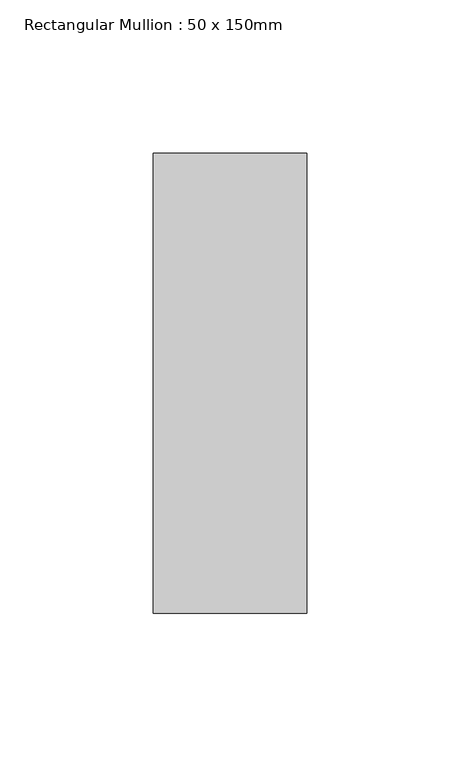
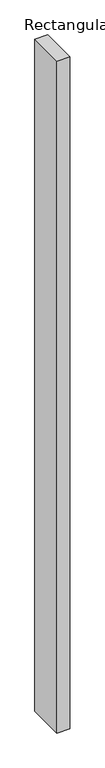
"""IFC4 building model written with IfcOpenShell, lengths in millimetres: member geometry, Rectangular Mullion : 50 x 150mm."""

import ifcopenshell
import ifcopenshell.guid

model = None  # the IFC model being written
_history = None  # IfcOwnerHistory: only IFC2X3 demands one
_inside = {}  # id of a spatial element -> (the spatial element, [elements in it])
_under = {}  # id of a project, library or spatial element -> (it, [spatial elements below it])
_declared = {}  # id of a project -> (the project, [libraries it declares])
_typed = {}  # id of a type object -> (the type object, [elements of that type])
_made_of = {}  # id of a material, layer set ... -> (it, [elements and type objects made of it])


def new_model(schema):
    """Start an empty IFC model of exactly this schema.

    Asked for "IFC4X3", IfcOpenShell would pick the latest addendum, in which some entities
    have other attributes; the version numbers below select the first issue.
    IFC2X3 requires an IfcOwnerHistory on every rooted entity: one is made here for all.
    """
    global model, _history
    if schema == "IFC4X3":
        model = ifcopenshell.file(schema_version=(4, 3, 0, 0))
    else:
        model = ifcopenshell.file(schema=schema)
    _inside.clear()
    _under.clear()
    _declared.clear()
    _typed.clear()
    _made_of.clear()
    _history = None
    if model.schema == "IFC2X3":
        org = make("IfcOrganization", Name="unknown")
        user = make(
            "IfcPersonAndOrganization",
            ThePerson=make("IfcPerson", FamilyName="unknown"),
            TheOrganization=org,
        )
        app = make(
            "IfcApplication",
            ApplicationDeveloper=org,
            Version="unknown",
            ApplicationFullName="unknown",
            ApplicationIdentifier="unknown",
        )
        _history = make(
            "IfcOwnerHistory",
            OwningUser=user,
            OwningApplication=app,
            ChangeAction="ADDED",
            CreationDate=0,
        )
    return model


def make(cls, **values):
    """One entity of the class cls with the attributes given. An attribute that is None is left unset."""
    return model.create_entity(
        cls, **{name: value for name, value in values.items() if value is not None}
    )


def rooted(cls, **values):
    """An entity with a GlobalId (a new one), such as an element, a storey or a relation."""
    return make(cls, GlobalId=ifcopenshell.guid.new(), OwnerHistory=_history, **values)


def si_unit(unit_type, name, prefix=None):
    """IfcSIUnit, for example si_unit("LENGTHUNIT", "METRE", prefix="MILLI")."""
    return make("IfcSIUnit", UnitType=unit_type, Prefix=prefix, Name=name)


def assignment(units):
    """IfcUnitAssignment: the units of a project."""
    return None if units is None else make("IfcUnitAssignment", Units=units)


def point(xyz):
    """IfcCartesianPoint."""
    return None if xyz is None else make("IfcCartesianPoint", Coordinates=xyz)


def direction(xyz):
    """IfcDirection."""
    return None if xyz is None else make("IfcDirection", DirectionRatios=xyz)


def frame(location, z_axis=None, x_axis=None):
    """IfcAxis2Placement3D, a coordinate frame: its origin and axes. An axis left out is left unset."""
    return make(
        "IfcAxis2Placement3D",
        Location=point(location),
        Axis=direction(z_axis),
        RefDirection=direction(x_axis),
    )


def origin():
    """The frame at (0, 0, 0) with its axes left unset."""
    return frame((0.0, 0.0, 0.0))


def place(relative_to, where):
    """IfcLocalPlacement: puts the frame where relative to a parent placement (None: the world)."""
    return make(
        "IfcLocalPlacement", PlacementRelTo=relative_to, RelativePlacement=where
    )


def context(
    kind, dimensions, precision=None, world=None, true_north=None, identifier=None
):
    """IfcGeometricRepresentationContext, for example the 3D "Model" context."""
    return make(
        "IfcGeometricRepresentationContext",
        ContextIdentifier=identifier,
        ContextType=kind,
        CoordinateSpaceDimension=dimensions,
        Precision=precision,
        WorldCoordinateSystem=world,
        TrueNorth=true_north,
    )


def project(units=None, contexts=None):
    """IfcProject with its units and contexts."""
    return rooted(
        "IfcProject",
        Name="project",
        RepresentationContexts=contexts,
        UnitsInContext=assignment(units),
    )


def spatial(cls, under=None, at=None, **own):
    """A site, building, storey or space (cls), placed at a placement, below another one or the project."""
    s = rooted(cls, ObjectPlacement=at, **own)
    if under is not None:
        _under.setdefault(under.id(), (under, []))[1].append(s)
    return s


def polyline(points):
    """IfcPolyline through the points."""
    return make("IfcPolyline", Points=[point(p) for p in points])


def outline(outer, holes=None, kind="AREA"):
    """IfcArbitraryClosedProfileDef: a profile drawn as a closed curve; with holes, ...WithVoids."""
    if holes is None:
        return make("IfcArbitraryClosedProfileDef", ProfileType=kind, OuterCurve=outer)
    return make(
        "IfcArbitraryProfileDefWithVoids",
        ProfileType=kind,
        OuterCurve=outer,
        InnerCurves=holes,
    )


def extrude(swept, where, along, depth):
    """IfcExtrudedAreaSolid: the profile swept, set in the frame where, extruded along a direction by depth."""
    return make(
        "IfcExtrudedAreaSolid",
        SweptArea=swept,
        Position=where,
        ExtrudedDirection=direction(along),
        Depth=depth,
    )


def shape(context_of_items, identifier, shape_type, items):
    """IfcShapeRepresentation: the items that make up one representation, for example the "Body"."""
    return make(
        "IfcShapeRepresentation",
        ContextOfItems=context_of_items,
        RepresentationIdentifier=identifier,
        RepresentationType=shape_type,
        Items=items,
    )


def source(mapping_origin, context_of_items, identifier, shape_type, items):
    """IfcRepresentationMap: a shape defined once, which mapped items show again and again."""
    return make(
        "IfcRepresentationMap",
        MappingOrigin=mapping_origin,
        MappedRepresentation=shape(context_of_items, identifier, shape_type, items),
    )


def transform(
    local_origin,
    x_axis=None,
    y_axis=None,
    z_axis=None,
    scale=None,
    scale2=None,
    scale3=None,
    uniform=True,
):
    """IfcCartesianTransformationOperator3D, or its non-uniform kind. x_axis, y_axis, z_axis: its Axis1, 2, 3."""
    if uniform:
        return make(
            "IfcCartesianTransformationOperator3D",
            Axis1=direction(x_axis),
            Axis2=direction(y_axis),
            LocalOrigin=point(local_origin),
            Scale=scale,
            Axis3=direction(z_axis),
        )
    return make(
        "IfcCartesianTransformationOperator3DnonUniform",
        Axis1=direction(x_axis),
        Axis2=direction(y_axis),
        LocalOrigin=point(local_origin),
        Scale=scale,
        Axis3=direction(z_axis),
        Scale2=scale2,
        Scale3=scale3,
    )


def mapped(mapping_source, mapping_target):
    """IfcMappedItem: shows the shape of a source again, moved by a transform."""
    return make(
        "IfcMappedItem", MappingSource=mapping_source, MappingTarget=mapping_target
    )


def made_of(thing, what):
    """Note that an element or type object is made of a material, layer set ...; save() writes the relation."""
    if what is not None:
        _made_of.setdefault(what.id(), (what, []))[1].append(thing)
    return thing


def element(
    cls,
    number,
    at=None,
    inside=None,
    cuts=None,
    type_object=None,
    material=None,
    context=None,
    identifier="Body",
    shape_type=None,
    held_by="IfcProductDefinitionShape",
    body=None,
    shapes=None,
    **own,
):
    """One element of the class cls, such as IfcWall. Its Tag is "e" and its number.

    at: its placement. inside: the storey or other place that contains it. cuts: it is an
    opening in that element (IfcRelVoidsElement). A single representation is given by context,
    identifier, shape_type and body (its items); several are given by shapes. held_by: the class
    of the entity that holds the representations. save() writes the other relations.
    """
    e = rooted(cls, Tag="e%d" % number, ObjectPlacement=at, **own)
    if body is not None:
        shapes = [shape(context, identifier, shape_type, body)]
    if shapes is not None:
        e.Representation = make(held_by, Representations=shapes)
    if inside is not None:
        _inside.setdefault(inside.id(), (inside, []))[1].append(e)
    if cuts is not None:
        rooted(
            "IfcRelVoidsElement", RelatingBuildingElement=cuts, RelatedOpeningElement=e
        )
    if type_object is not None:
        _typed.setdefault(type_object.id(), (type_object, []))[1].append(e)
    return made_of(e, material)


def aggregate(whole, parts):
    """IfcRelAggregates: a whole, such as a stair, and the parts it consists of."""
    return rooted("IfcRelAggregates", RelatingObject=whole, RelatedObjects=parts)


def save(model, path):
    """Write the relations noted so far, then the file.

    IfcRelAggregates (storeys below a building ...), IfcRelContainedInSpatialStructure (elements
    in a storey), IfcRelDefinesByType, IfcRelAssociatesMaterial and IfcRelDeclares: one each for
    every whole, place, type object, material and project.
    """
    for whole, parts in _under.values():
        aggregate(whole, parts)
    for where, things in _inside.values():
        rooted(
            "IfcRelContainedInSpatialStructure",
            RelatedElements=things,
            RelatingStructure=where,
        )
    for kind, things in _typed.values():
        rooted("IfcRelDefinesByType", RelatedObjects=things, RelatingType=kind)
    for what, things in _made_of.values():
        rooted("IfcRelAssociatesMaterial", RelatedObjects=things, RelatingMaterial=what)
    for by, libraries in _declared.values():
        rooted("IfcRelDeclares", RelatingContext=by, RelatedDefinitions=libraries)
    model.write(path)


def rectangular_mullion_50_x_150mm_8b4cb4b7(model_context):
    return source(origin(), model_context, "Body", "SweptSolid", [
        extrude(outline(polyline([(25.0, 75.0), (25.0, -75.0), (-25.0, -75.0), (-25.0, 75.0), (25.0, 75.0)])), frame((0.0, 0.0, -2790.592625), z_axis=(0.0, 0.0, 1.0), x_axis=(1.0, 0.0, 0.0)), (0.0, 0.0, 1.0), 2790.592625),
    ])


if __name__ == "__main__":
    model = new_model("IFC4")
    model_context = context("Model", 3, world=origin())
    ifc_project = project(units=[si_unit("LENGTHUNIT", "METRE", prefix="MILLI")], contexts=[model_context])
    site = spatial("IfcSite", under=ifc_project)
    building = spatial("IfcBuilding", under=site)
    placement = place(None, origin())
    rectangular_mullion_50_x_150mm_shape = rectangular_mullion_50_x_150mm_8b4cb4b7(model_context)
    element("IfcMember", 1, ObjectType="Rectangular Mullion : 50 x 150mm", at=placement, inside=building, context=model_context, shape_type="MappedRepresentation", body=[
        mapped(rectangular_mullion_50_x_150mm_shape, transform((0.0, 0.0, 0.0), x_axis=(1.0, 0.0, 0.0), y_axis=(0.0, 1.0, 0.0), z_axis=(0.0, 0.0, 1.0))),
    ])
    save(model, "model.ifc")
